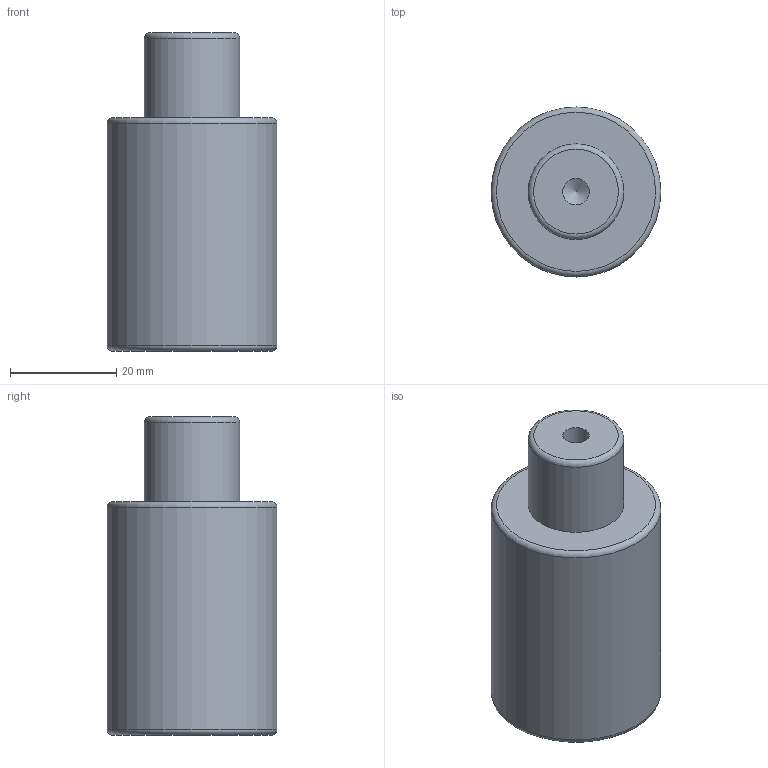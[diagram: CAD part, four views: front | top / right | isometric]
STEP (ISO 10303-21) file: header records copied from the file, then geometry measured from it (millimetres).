
FILE_DESCRIPTION(/* description */ (''),/* implementation_level */ '2;1');
FILE_NAME(/* name */ 'NV5-SMLX.32x15.stp',/* time_stamp */ '2018-08-31T16:08:37+02:00',/* author */ (''),/* organization */ (''),/* preprocessor_version */ 'ST-DEVELOPER v16',/* originating_system */ 'SIEMENS PLM Software NX 10.0',/* authorisation */ '');
FILE_SCHEMA (('AUTOMOTIVE_DESIGN { 1 0 10303 214 3 1 1 1 }'));
Length unit declared in the file: millimetre
Products named in the file (1): NV5-SMLX.32x15
Bounding box: 32 x 32 x 60 mm (x, y, z)
Volume: 38952.4 mm3; surface area: 7176.9 mm2
Topology: 1 solids, 1 shells, 12 faces, 24 edges, 15 vertices
Faces by surface type: cylinder 4, torus 3, plane 3, cone 2
Full cylindrical faces by diameter (mm): 5 x2, 18 x1, 32 x1
Entity records: 266 total; most frequent: DIRECTION 48, CARTESIAN_POINT 37, FACE_BOUND 24, AXIS2_PLACEMENT_3D 24, EDGE_LOOP 22, ORIENTED_EDGE 22, VERTEX_POINT 13, ADVANCED_FACE 12
